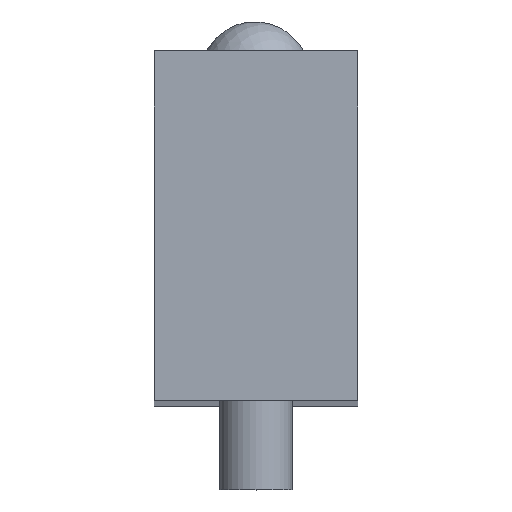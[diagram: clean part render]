
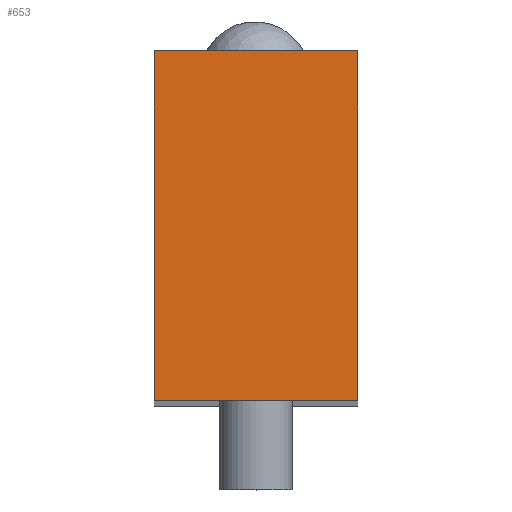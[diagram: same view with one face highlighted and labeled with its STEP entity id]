
A CAD part, top view. The second image highlights one B-rep face of the part: STEP entity #653.
In plain terms, the highlighted planar face has unit normal (0, 0, 1).
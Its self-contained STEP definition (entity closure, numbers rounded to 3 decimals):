
#40=LINE('',#1111,#65);
#44=LINE('',#1124,#69);
#51=LINE('',#1145,#76);
#52=LINE('',#1147,#77);
#65=VECTOR('',#933,10.);
#69=VECTOR('',#943,10.);
#76=VECTOR('',#968,10.);
#77=VECTOR('',#971,10.);
#153=FACE_OUTER_BOUND('',#216,.T.);
#216=EDGE_LOOP('',(#546,#547,#548,#549));
#312=VERTEX_POINT('',#1108);
#313=VERTEX_POINT('',#1110);
#318=VERTEX_POINT('',#1121);
#319=VERTEX_POINT('',#1123);
#381=EDGE_CURVE('',#313,#312,#40,.T.);
#387=EDGE_CURVE('',#319,#318,#44,.T.);
#398=EDGE_CURVE('',#312,#319,#51,.T.);
#399=EDGE_CURVE('',#318,#313,#52,.T.);
#546=ORIENTED_EDGE('',*,*,#387,.T.);
#547=ORIENTED_EDGE('',*,*,#399,.T.);
#548=ORIENTED_EDGE('',*,*,#381,.T.);
#549=ORIENTED_EDGE('',*,*,#398,.T.);
#568=PLANE('',#764);
#653=ADVANCED_FACE('',(#153),#568,.T.);
#764=AXIS2_PLACEMENT_3D('',#1148,#972,#973);
#933=DIRECTION('',(-1.,0.,0.));
#943=DIRECTION('',(1.,0.,0.));
#968=DIRECTION('',(0.,-1.,0.));
#971=DIRECTION('',(0.,1.,0.));
#972=DIRECTION('center_axis',(0.,0.,1.));
#973=DIRECTION('ref_axis',(1.,0.,0.));
#1108=CARTESIAN_POINT('',(-13.9,47.8,55.));
#1110=CARTESIAN_POINT('',(13.9,47.8,55.));
#1111=CARTESIAN_POINT('',(13.9,47.8,55.));
#1121=CARTESIAN_POINT('',(13.9,0.,55.));
#1123=CARTESIAN_POINT('',(-13.9,0.,55.));
#1124=CARTESIAN_POINT('',(-13.9,0.,55.));
#1145=CARTESIAN_POINT('',(-13.9,47.8,55.));
#1147=CARTESIAN_POINT('',(13.9,0.,55.));
#1148=CARTESIAN_POINT('Origin',(0.,23.9,55.));
